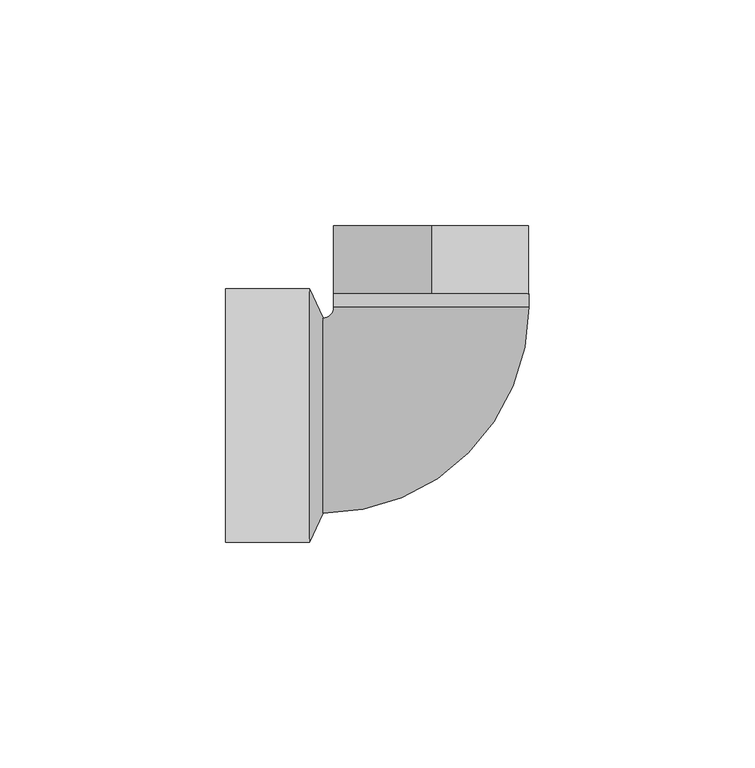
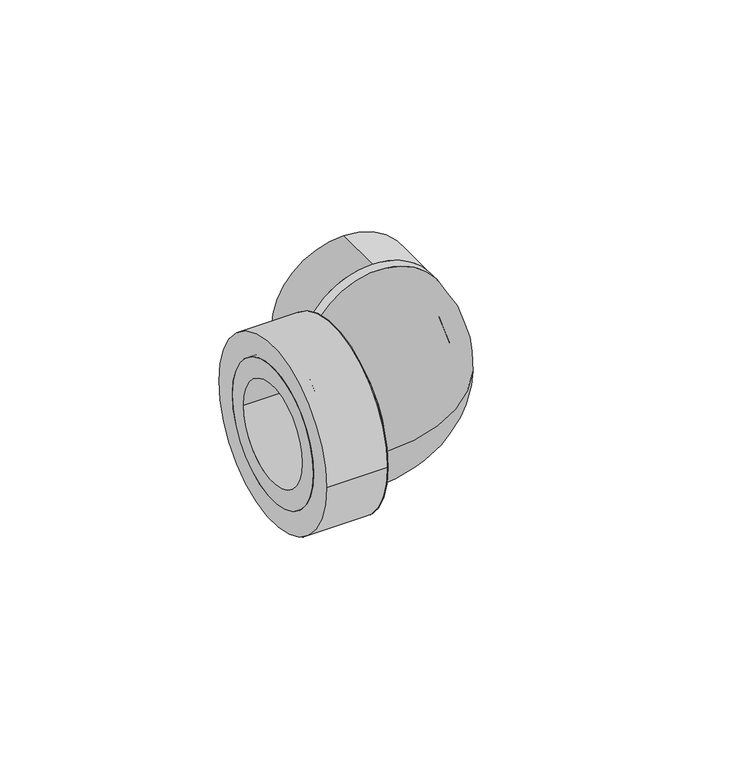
"""IFC4 building model written with IfcOpenShell, lengths in millimetres: pipe fitting geometry, 36_Угольник комбинированный ВР : Белый цвет."""

from ifc_helpers import new_model, si_unit, point, frame, frame_2d, origin, origin_2d, place, context, project, spatial, polyline, circle_curve, ellipse_curve, trimmed, segment, composite_curve, outline, extrude, source, transform, mapped, element, save
from ifc_brep_helpers import plane_surface, revolved_surface, advanced_brep


def pipe_fitting_9a991c30(model_context):
    return source(origin(), model_context, "Body", "SolidModel", [
        extrude(outline(composite_curve([segment(trimmed(circle_curve(origin_2d(), 21.0), [point((-21.0, 0.0))], [point((21.0, 0.0))], False, "CARTESIAN"), True, "CONTINUOUS"), segment(trimmed(circle_curve(origin_2d(), 21.0), [point((21.0, 0.0))], [point((-21.0, 0.0))], False, "CARTESIAN"), True, "CONTINUOUS")], self_intersect=False), holes=[composite_curve([segment(trimmed(circle_curve(origin_2d(), 15.25), [point((-15.25, 0.0))], [point((15.25, 0.0))], True, "CARTESIAN"), True, "CONTINUOUS"), segment(trimmed(circle_curve(origin_2d(), 15.25), [point((15.25, 0.0))], [point((-15.25, 0.0))], True, "CARTESIAN"), True, "CONTINUOUS")], self_intersect=False)]), frame((-41.85, 0.0, 0.0), z_axis=(1.0, 0.0, 0.0), x_axis=(0.0, 1.0, 0.0)), (0.0, 0.0, 1.0), 18.5),
        advanced_brep(
        [(-17.95, 24.0, 0.0), (25.25, 24.0, 0.0), (-12.35, 24.0, 0.0), (19.65, 24.0, 0.0), (-20.35, 21.6, 0.0), (-20.35, -21.6, 0.0), (-20.35, 16.0, 0.0), (-20.35, -16.0, 0.0)],
        [
            (0, 1, circle_curve(frame((3.65, 24.0, 0.0), z_axis=(0.0, 1.0, 0.0), x_axis=(1.0, 0.0, 0.0)), 21.6)),
            (1, 0, circle_curve(frame((3.65, 24.0, 0.0), z_axis=(0.0, 1.0, 0.0), x_axis=(1.0, 0.0, 0.0)), 21.6)),
            (2, 3, circle_curve(frame((3.65, 24.0, 0.0), z_axis=(0.0, -1.0, 0.0), x_axis=(1.0, 0.0, 0.0)), 16.0)),
            (3, 2, circle_curve(frame((3.65, 24.0, 0.0), z_axis=(0.0, -1.0, 0.0), x_axis=(1.0, 0.0, 0.0)), 16.0)),
            (4, 5, circle_curve(frame((-20.35, 0.0, 0.0), z_axis=(-1.0, 0.0, 0.0), x_axis=(0.0, -1.0, 0.0)), 21.6)),
            (5, 4, circle_curve(frame((-20.35, 0.0, 0.0), z_axis=(-1.0, 0.0, 0.0), x_axis=(0.0, -1.0, 0.0)), 21.6)),
            (6, 7, circle_curve(frame((-20.35, 0.0, 0.0), z_axis=(1.0, 0.0, 0.0), x_axis=(0.0, -1.0, 0.0)), 16.0)),
            (7, 6, circle_curve(frame((-20.35, 0.0, 0.0), z_axis=(1.0, 0.0, 0.0), x_axis=(0.0, -1.0, 0.0)), 16.0)),
            (5, 1, circle_curve(frame((-20.35, 24.0, 0.0), z_axis=(0.0, 0.0, 1.0), x_axis=(1.0, 0.0, 0.0)), 45.6)),
            (0, 4, circle_curve(frame((-20.35, 24.0, 0.0), z_axis=(0.0, 0.0, -1.0), x_axis=(1.0, 0.0, 0.0)), 2.4)),
            (7, 3, circle_curve(frame((-20.35, 24.0, 0.0), z_axis=(0.0, 0.0, 1.0), x_axis=(1.0, 0.0, 0.0)), 40.0)),
            (2, 6, circle_curve(frame((-20.35, 24.0, 0.0), z_axis=(0.0, 0.0, -1.0), x_axis=(1.0, 0.0, 0.0)), 8.0)),
        ],
        [
            plane_surface(frame((3.65, 24.0, 0.0), z_axis=(0.0, 1.0, 0.0), x_axis=(0.0, 0.0, 1.0))),
            plane_surface(frame((-20.35, 0.0, 0.0), z_axis=(-1.0, 0.0, 0.0), x_axis=(0.0, 0.0, 1.0))),
            revolved_surface(trimmed(ellipse_curve(frame((3.65, 24.0, 0.0), z_axis=(0.0, 1.0, 0.0), x_axis=(1.0, 0.0, 0.0)), 21.6, 21.6), [point((-17.95, 24.0, 0.0))], [point((25.25, 24.0, 0.0))], True, "CARTESIAN"), (-20.35, 24.0, 0.0), (0.0, 0.0, -1.0)),
            revolved_surface(trimmed(ellipse_curve(frame((3.65, 24.0, 0.0), z_axis=(0.0, 1.0, 0.0), x_axis=(1.0, 0.0, 0.0)), 21.6, 21.6), [point((25.25, 24.0, 0.0))], [point((-17.95, 24.0, 0.0))], True, "CARTESIAN"), (-20.35, 24.0, 0.0), (0.0, 0.0, -1.0)),
            revolved_surface(trimmed(ellipse_curve(frame((3.65, 24.0, 0.0), z_axis=(0.0, -1.0, 0.0), x_axis=(1.0, 0.0, 0.0)), 16.0, 16.0), [point((-12.35, 24.0, 0.0))], [point((19.65, 24.0, 0.0))], True, "CARTESIAN"), (-20.35, 24.0, 0.0), (0.0, 0.0, -1.0)),
            revolved_surface(trimmed(ellipse_curve(frame((3.65, 24.0, 0.0), z_axis=(0.0, -1.0, 0.0), x_axis=(1.0, 0.0, 0.0)), 16.0, 16.0), [point((19.65, 24.0, 0.0))], [point((-12.35, 24.0, 0.0))], True, "CARTESIAN"), (-20.35, 24.0, 0.0), (0.0, 0.0, -1.0)),
        ],
        [
            (0, [[1, 2], [3, 4]]),
            (1, [[5, 6], [7, 8]]),
            (2, [[9, -1, 10, -6]]),
            (3, [[-10, -2, -9, -5]]),
            (4, [[11, -3, 12, -8]]),
            (5, [[-12, -4, -11, -7]]),
        ],
    ),
        advanced_brep(
        [(-20.35, -21.55, 0.0), (-20.35, 21.65, 0.0), (-20.35, 16.05, 0.0), (-20.35, -15.95, 0.0), (-23.35, -27.95, 0.0), (-23.35, 28.05, 0.0), (-23.35, -20.95, 0.0), (-23.35, 21.05, 0.0)],
        [
            (0, 1, circle_curve(frame((-20.35, 0.05, 0.0), z_axis=(1.0, 0.0, 0.0), x_axis=(0.0, -1.0, 0.0)), 21.6)),
            (1, 0, circle_curve(frame((-20.35, 0.05, 0.0), z_axis=(1.0, 0.0, 0.0), x_axis=(0.0, 1.0, 0.0)), 21.6)),
            (2, 3, circle_curve(frame((-20.35, 0.05, 0.0), z_axis=(-1.0, 0.0, -1.2355450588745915e-12), x_axis=(0.0, -1.0, 0.0)), 16.0)),
            (3, 2, circle_curve(frame((-20.35, 0.05, 0.0), z_axis=(-1.0, 0.0, -1.2355450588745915e-12), x_axis=(0.0, 1.0, 0.0)), 16.0)),
            (4, 5, circle_curve(frame((-23.35, 0.05, 0.0), z_axis=(-1.0, 0.0, 0.0), x_axis=(0.0, 1.0, 0.0)), 28.0)),
            (5, 4, circle_curve(frame((-23.35, 0.05, 0.0), z_axis=(-1.0, 0.0, 0.0), x_axis=(0.0, -1.0, 0.0)), 28.0)),
            (6, 7, circle_curve(frame((-23.35, 0.05, 0.0), z_axis=(1.0, 0.0, 1.2355450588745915e-12), x_axis=(0.0, -1.0, 0.0)), 21.0)),
            (7, 6, circle_curve(frame((-23.35, 0.05, 0.0), z_axis=(1.0, 0.0, 1.2355450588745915e-12), x_axis=(0.0, 1.0, 0.0)), 21.0)),
            (0, 4),
            (5, 1),
            (6, 3),
            (2, 7),
        ],
        [
            plane_surface(frame((-20.35, 0.05, 0.0), z_axis=(1.0, 0.0, 0.0), x_axis=(0.0, 0.0, -1.0))),
            plane_surface(frame((-23.35, 0.05, 0.0), z_axis=(-1.0, 0.0, 0.0), x_axis=(0.0, 0.0, -1.0))),
            revolved_surface(polyline([(-20.35, -21.55, 0.0), (-23.35, -27.95, 0.0)]), (-10.225, 0.05, 0.0), (-1.0, 0.0, 0.0)),
            revolved_surface(polyline([(-20.35, 21.650000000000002, 0.0), (-23.35, 28.05, 0.0)]), (-10.225, 0.05, 0.0), (-1.0, 0.0, 0.0)),
            revolved_surface(polyline([(-23.35, -20.95, 0.0), (-20.35, -15.95, 0.0)]), (-10.75, 0.05, 0.0), (-1.0, 0.0, -1.2355450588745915e-12)),
        ],
        [
            (0, [[1, 2], [3, 4]]),
            (1, [[5, 6], [7, 8]]),
            (2, [[-1, 9, -6, 10]]),
            (3, [[-2, -10, -5, -9]]),
            (4, [[11, -3, 12, -7]]),
            (4, [[-11, -8, -12, -4]]),
        ],
    ),
        extrude(outline(composite_curve([segment(trimmed(circle_curve(frame_2d((0.0, 3.65)), 21.6), [point((0.0, -17.95))], [point((0.0, 25.25))], False, "CARTESIAN"), True, "CONTINUOUS"), segment(trimmed(circle_curve(frame_2d((0.0, 3.65)), 21.6), [point((0.0, 25.25))], [point((0.0, -17.95))], False, "CARTESIAN"), True, "CONTINUOUS")], self_intersect=False), holes=[composite_curve([segment(trimmed(circle_curve(frame_2d((0.0, 3.65)), 16.0), [point((0.0, 19.65))], [point((0.0, -12.35))], True, "CARTESIAN"), True, "CONTINUOUS"), segment(trimmed(circle_curve(frame_2d((0.0, 3.65)), 16.0), [point((0.0, -12.35))], [point((0.0, 19.65))], True, "CARTESIAN"), True, "CONTINUOUS")], self_intersect=False)]), frame((0.0, 24.0, 0.0), z_axis=(0.0, 1.0, 0.0), x_axis=(0.0, 0.0, 1.0)), (0.0, 0.0, 1.0), 3.0),
        extrude(outline(composite_curve([segment(trimmed(circle_curve(frame_2d((0.0, 3.65)), 21.6), [point((-21.6, 3.65))], [point((21.6, 3.65))], False, "CARTESIAN"), True, "CONTINUOUS"), segment(trimmed(circle_curve(frame_2d((0.0, 3.65)), 21.6), [point((21.6, 3.65))], [point((-21.6, 3.65))], False, "CARTESIAN"), True, "CONTINUOUS")], self_intersect=False), holes=[composite_curve([segment(trimmed(circle_curve(frame_2d((0.0, 3.65)), 16.0), [point((-16.0, 3.65))], [point((16.0, 3.65))], True, "CARTESIAN"), True, "CONTINUOUS"), segment(trimmed(circle_curve(frame_2d((0.0, 3.65)), 16.0), [point((16.0, 3.65))], [point((-16.0, 3.65))], True, "CARTESIAN"), True, "CONTINUOUS")], self_intersect=False)]), frame((0.0, 27.0, 0.0), z_axis=(0.0, 1.0, 0.0), x_axis=(0.0, 0.0, 1.0)), (0.0, 0.0, 1.0), 15.0),
        extrude(outline(composite_curve([segment(trimmed(circle_curve(frame_2d((0.05, 0.0)), 28.0), [point((-27.95, 0.0))], [point((28.05, 0.0))], False, "CARTESIAN"), True, "CONTINUOUS"), segment(trimmed(circle_curve(frame_2d((0.05, 0.0)), 28.0), [point((28.05, 0.0))], [point((-27.95, 0.0))], False, "CARTESIAN"), True, "CONTINUOUS")], self_intersect=False), holes=[composite_curve([segment(trimmed(circle_curve(frame_2d((0.05, 0.0)), 21.0), [point((-20.95, 0.0))], [point((21.05, 0.0))], True, "CARTESIAN"), True, "CONTINUOUS"), segment(trimmed(circle_curve(frame_2d((0.05, 0.0)), 21.0), [point((21.05, 0.0))], [point((-20.95, 0.0))], True, "CARTESIAN"), True, "CONTINUOUS")], self_intersect=False)]), frame((-41.85, 0.0, 0.0), z_axis=(1.0, 0.0, 0.0), x_axis=(0.0, 1.0, 0.0)), (0.0, 0.0, 1.0), 18.5),
    ])


if __name__ == "__main__":
    model = new_model("IFC4")
    model_context = context("Model", 3, world=origin())
    ifc_project = project(units=[si_unit("LENGTHUNIT", "METRE", prefix="MILLI")], contexts=[model_context])
    site = spatial("IfcSite", under=ifc_project)
    building = spatial("IfcBuilding", under=site)
    placement = place(None, origin())
    pipe_fitting_shape = pipe_fitting_9a991c30(model_context)
    element("IfcPipeFitting", 1, ObjectType="36_Угольник комбинированный ВР : Белый цвет", at=placement, inside=building, context=model_context, shape_type="MappedRepresentation", body=[
        mapped(pipe_fitting_shape, transform((0.0, 0.0, 0.0), x_axis=(1.0, 0.0, 0.0), y_axis=(0.0, 1.0, 0.0), z_axis=(0.0, 0.0, 1.0))),
    ])
    save(model, "model.ifc")
